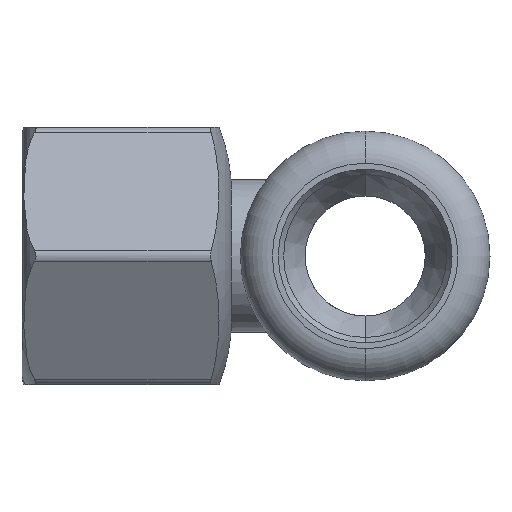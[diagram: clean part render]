
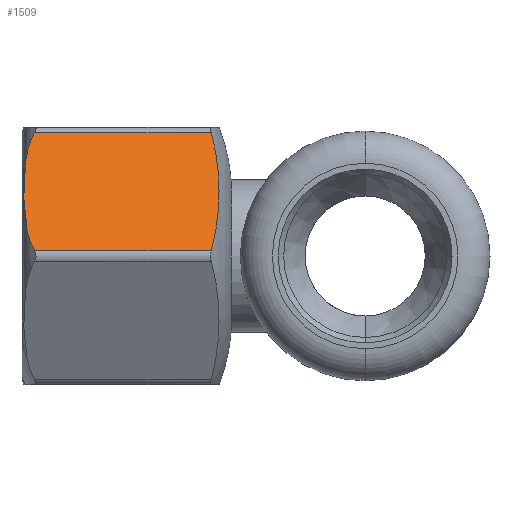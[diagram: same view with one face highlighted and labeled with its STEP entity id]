
A CAD part, left-side view. The second image highlights one B-rep face of the part: STEP entity #1509.
In plain terms, the highlighted planar face has unit normal (-0.866, 0, 0.5).
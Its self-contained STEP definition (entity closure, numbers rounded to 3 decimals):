
#66 = AXIS2_PLACEMENT_3D ( 'NONE', #127, #3927, #2224 ) ;
#127 = CARTESIAN_POINT ( 'NONE',  ( -13.856, 32., 0. ) ) ;
#203 = VERTEX_POINT ( 'NONE', #2823 ) ;
#376 = CARTESIAN_POINT ( 'NONE',  ( -13.047, 14.096, 1.402 ) ) ;
#548 = ORIENTED_EDGE ( 'NONE', *, *, #3168, .T. ) ;
#710 = CARTESIAN_POINT ( 'NONE',  ( -13.321, 31.054, 0.928 ) ) ;
#744 = CARTESIAN_POINT ( 'NONE',  ( -12.933, 31.312, 1.6 ) ) ;
#805 = CARTESIAN_POINT ( 'NONE',  ( -11.468, 31.776, 4.136 ) ) ;
#889 = CARTESIAN_POINT ( 'NONE',  ( -9.853, 13.629, 6.933 ) ) ;
#1289 = CARTESIAN_POINT ( 'NONE',  ( -8.639, 31.633, 9.037 ) ) ;
#1436 = CARTESIAN_POINT ( 'NONE',  ( -12.521, 13.918, 2.313 ) ) ;
#1451 = EDGE_CURVE ( 'NONE', #203, #2020, #1541, .T. ) ;
#1509 = ADVANCED_FACE ( 'NONE', ( #2327 ), #1781, .F. ) ;
#1541 = LINE ( 'NONE', #1640, #5486 ) ;
#1640 = CARTESIAN_POINT ( 'NONE',  ( -13.568, 32., 0.5 ) ) ;
#1742 = CARTESIAN_POINT ( 'NONE',  ( -9.849, 31.829, 6.941 ) ) ;
#1781 = PLANE ( 'NONE',  #66 ) ;
#1913 = VERTEX_POINT ( 'NONE', #5969 ) ;
#2020 = VERTEX_POINT ( 'NONE', #2871 ) ;
#2052 = EDGE_CURVE ( 'NONE', #1913, #2020, #4289, .T. ) ;
#2224 = DIRECTION ( 'NONE',  ( -0.5, 0., -0.866 ) ) ;
#2327 = FACE_OUTER_BOUND ( 'NONE', #2444, .T. ) ;
#2331 = ORIENTED_EDGE ( 'NONE', *, *, #1451, .T. ) ;
#2355 = CARTESIAN_POINT ( 'NONE',  ( -10.12, 31.841, 6.471 ) ) ;
#2385 = CARTESIAN_POINT ( 'NONE',  ( -9.31, 31.775, 7.875 ) ) ;
#2395 = CARTESIAN_POINT ( 'NONE',  ( -8.263, 13.918, 9.688 ) ) ;
#2423 = CARTESIAN_POINT ( 'NONE',  ( -13.568, 30.83, 0.5 ) ) ;
#2444 = EDGE_LOOP ( 'NONE', ( #4869, #2331, #5613, #548 ) ) ;
#2465 = CARTESIAN_POINT ( 'NONE',  ( -7.217, 30.83, 11.5 ) ) ;
#2467 = CARTESIAN_POINT ( 'NONE',  ( -13.568, 14.351, 0.5 ) ) ;
#2597 = DIRECTION ( 'NONE',  ( 0., -1., 0. ) ) ;
#2697 = VECTOR ( 'NONE', #6143, 1000. ) ;
#2798 = EDGE_CURVE ( 'NONE', #203, #5171, #5785, .T. ) ;
#2803 = CARTESIAN_POINT ( 'NONE',  ( -10.661, 31.841, 5.535 ) ) ;
#2823 = CARTESIAN_POINT ( 'NONE',  ( -13.568, 30.83, 0.5 ) ) ;
#2860 = CARTESIAN_POINT ( 'NONE',  ( -12.271, 31.602, 2.746 ) ) ;
#2871 = CARTESIAN_POINT ( 'NONE',  ( -13.568, 14.351, 0.5 ) ) ;
#2899 = CARTESIAN_POINT ( 'NONE',  ( -8.106, 31.441, 9.961 ) ) ;
#3168 = EDGE_CURVE ( 'NONE', #1913, #5171, #6584, .T. ) ;
#3326 = CARTESIAN_POINT ( 'NONE',  ( -7.217, 30.83, 11.5 ) ) ;
#3363 = CARTESIAN_POINT ( 'NONE',  ( -7.458, 31.069, 11.082 ) ) ;
#3518 = CARTESIAN_POINT ( 'NONE',  ( -7.738, 14.096, 10.598 ) ) ;
#3885 = CARTESIAN_POINT ( 'NONE',  ( -8.505, 31.593, 9.268 ) ) ;
#3927 = DIRECTION ( 'NONE',  ( 0.866, 0., -0.5 ) ) ;
#3971 = CARTESIAN_POINT ( 'NONE',  ( -9.321, 13.685, 7.856 ) ) ;
#4079 = CARTESIAN_POINT ( 'NONE',  ( -11.46, 13.7, 4.151 ) ) ;
#4289 = B_SPLINE_CURVE_WITH_KNOTS ( 'NONE', 3,
 ( #4633, #3518, #2395, #3971, #889, #6203, #5645, #4079, #5085, #1436, #376, #2467 ),
 .UNSPECIFIED., .F., .F.,
 ( 4, 2, 2, 2, 2, 4 ),
 ( 0.001, 0.004, 0.007, 0.009, 0.01, 0.013 ),
 .UNSPECIFIED. ) ;
#4418 = CARTESIAN_POINT ( 'NONE',  ( -11.737, 31.734, 3.672 ) ) ;
#4633 = CARTESIAN_POINT ( 'NONE',  ( -7.217, 14.351, 11.5 ) ) ;
#4869 = ORIENTED_EDGE ( 'NONE', *, *, #2798, .F. ) ;
#4939 = CARTESIAN_POINT ( 'NONE',  ( -7.713, 31.241, 10.641 ) ) ;
#4972 = CARTESIAN_POINT ( 'NONE',  ( -12.537, 31.512, 2.286 ) ) ;
#5004 = CARTESIAN_POINT ( 'NONE',  ( -10.93, 31.829, 5.068 ) ) ;
#5039 = CARTESIAN_POINT ( 'NONE',  ( -9.041, 31.733, 8.341 ) ) ;
#5085 = CARTESIAN_POINT ( 'NONE',  ( -11.726, 13.743, 3.69 ) ) ;
#5171 = VERTEX_POINT ( 'NONE', #2465 ) ;
#5486 = VECTOR ( 'NONE', #2597, 1000. ) ;
#5497 = CARTESIAN_POINT ( 'NONE',  ( -13.064, 31.235, 1.372 ) ) ;
#5613 = ORIENTED_EDGE ( 'NONE', *, *, #2052, .F. ) ;
#5645 = CARTESIAN_POINT ( 'NONE',  ( -10.926, 13.643, 5.076 ) ) ;
#5785 = B_SPLINE_CURVE_WITH_KNOTS ( 'NONE', 3,
 ( #2423, #5987, #710, #5497, #744, #4972, #2860, #4418, #805, #5004, #2803, #2355, #1742, #2385, #5039, #1289, #3885, #6025, #2899, #4939, #3363, #3326 ),
 .UNSPECIFIED., .F., .F.,
 ( 4, 2, 2, 2, 2, 2, 2, 2, 2, 2, 4 ),
 ( 0.001, 0.001, 0.002, 0.004, 0.006, 0.007, 0.009, 0.01, 0.011, 0.012, 0.014 ),
 .UNSPECIFIED. ) ;
#5969 = CARTESIAN_POINT ( 'NONE',  ( -7.217, 14.351, 11.5 ) ) ;
#5987 = CARTESIAN_POINT ( 'NONE',  ( -13.446, 30.95, 0.711 ) ) ;
#6025 = CARTESIAN_POINT ( 'NONE',  ( -8.239, 31.497, 9.73 ) ) ;
#6143 = DIRECTION ( 'NONE',  ( 0., 1., 0. ) ) ;
#6203 = CARTESIAN_POINT ( 'NONE',  ( -10.657, 13.629, 5.541 ) ) ;
#6584 = LINE ( 'NONE', #6696, #2697 ) ;
#6696 = CARTESIAN_POINT ( 'NONE',  ( -7.217, 32., 11.5 ) ) ;
